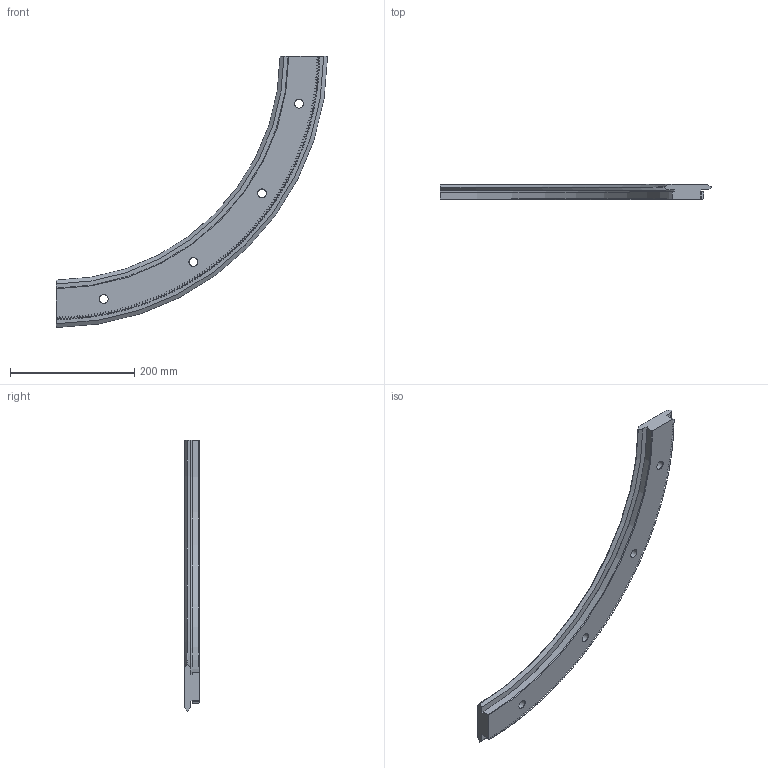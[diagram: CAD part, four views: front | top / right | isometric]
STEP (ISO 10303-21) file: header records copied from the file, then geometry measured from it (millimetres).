
FILE_DESCRIPTION( ( 'STEP AP203' ), '1' );
FILE_NAME( 'p:/temp/worker_34/temp/exporttempdir_3528_583_h3Y7I/format_0/R76 799 R90 P.stp', '2021-07-19T05:41:33', ( 'License CC BY-ND 4.0' ), ( 'CADENAS' ), ' ', 'PARTsolutions', ' ' );
FILE_SCHEMA( ( 'CONFIG_CONTROL_DESIGN' ) );
Length unit declared in the file: millimetre
Products named in the file (1): _R76 799 R90 P
Bounding box: 435.59 x 24 x 435.59 mm (x, y, z)
Volume: 817725.2 mm3; surface area: 140914.5 mm2
Topology: 1 solids, 1 shells, 878 faces, 2330 edges, 1458 vertices
Faces by surface type: plane 576, cylinder 151, cone 149, torus 2
Full cylindrical faces by diameter (mm): 14 x4, 20 x4
Entity records: 27309 total; most frequent: CARTESIAN_POINT 5549, ORIENTED_EDGE 4636, DIRECTION 4519, EDGE_CURVE 2318, AXIS2_PLACEMENT_3D 1616, VERTEX_POINT 1458, LINE 1287, VECTOR 1287
